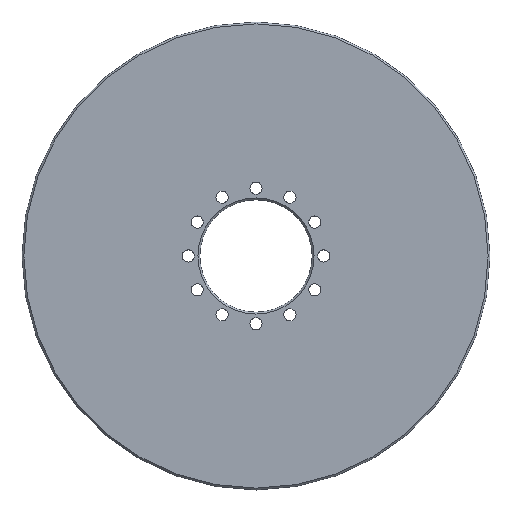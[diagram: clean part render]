
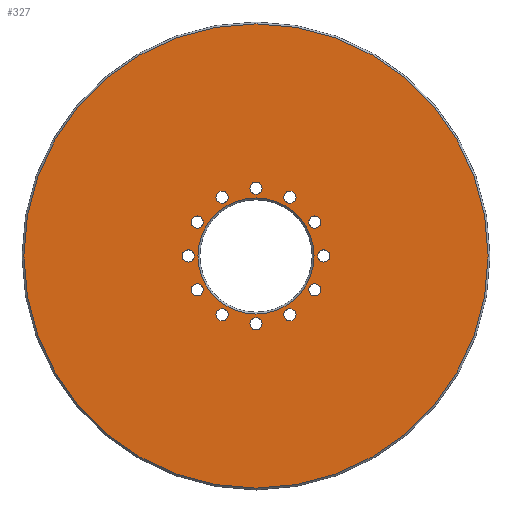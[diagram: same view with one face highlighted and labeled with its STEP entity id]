
A CAD part, top view. The second image highlights one B-rep face of the part: STEP entity #327.
In plain terms, the highlighted planar face has unit normal (0, 0, 1).
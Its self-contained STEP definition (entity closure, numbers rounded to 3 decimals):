
#16=PLANE('',#366);
#47=FACE_BOUND('',#116,.T.);
#48=FACE_BOUND('',#117,.T.);
#49=FACE_BOUND('',#118,.T.);
#50=FACE_BOUND('',#119,.T.);
#51=FACE_BOUND('',#120,.T.);
#52=FACE_BOUND('',#121,.T.);
#53=FACE_BOUND('',#122,.T.);
#54=FACE_BOUND('',#123,.T.);
#55=FACE_BOUND('',#124,.T.);
#56=FACE_BOUND('',#125,.T.);
#57=FACE_BOUND('',#126,.T.);
#58=FACE_BOUND('',#127,.T.);
#59=FACE_BOUND('',#128,.T.);
#79=FACE_OUTER_BOUND('',#115,.T.);
#115=EDGE_LOOP('',(#275));
#116=EDGE_LOOP('',(#276));
#117=EDGE_LOOP('',(#277));
#118=EDGE_LOOP('',(#278));
#119=EDGE_LOOP('',(#279));
#120=EDGE_LOOP('',(#280));
#121=EDGE_LOOP('',(#281));
#122=EDGE_LOOP('',(#282));
#123=EDGE_LOOP('',(#283));
#124=EDGE_LOOP('',(#284));
#125=EDGE_LOOP('',(#285));
#126=EDGE_LOOP('',(#286));
#127=EDGE_LOOP('',(#287));
#128=EDGE_LOOP('',(#288));
#175=CIRCLE('',#365,248.);
#176=CIRCLE('',#367,62.);
#177=CIRCLE('',#368,6.5);
#178=CIRCLE('',#369,6.5);
#179=CIRCLE('',#370,6.5);
#180=CIRCLE('',#371,6.5);
#181=CIRCLE('',#372,6.5);
#182=CIRCLE('',#373,6.5);
#183=CIRCLE('',#374,6.5);
#184=CIRCLE('',#375,6.5);
#185=CIRCLE('',#376,6.5);
#186=CIRCLE('',#377,6.5);
#187=CIRCLE('',#378,6.5);
#188=CIRCLE('',#379,6.5);
#207=VERTEX_POINT('',#540);
#208=VERTEX_POINT('',#543);
#209=VERTEX_POINT('',#545);
#210=VERTEX_POINT('',#547);
#211=VERTEX_POINT('',#549);
#212=VERTEX_POINT('',#551);
#213=VERTEX_POINT('',#553);
#214=VERTEX_POINT('',#555);
#215=VERTEX_POINT('',#557);
#216=VERTEX_POINT('',#559);
#217=VERTEX_POINT('',#561);
#218=VERTEX_POINT('',#563);
#219=VERTEX_POINT('',#565);
#220=VERTEX_POINT('',#567);
#239=EDGE_CURVE('',#207,#207,#175,.T.);
#240=EDGE_CURVE('',#208,#208,#176,.T.);
#241=EDGE_CURVE('',#209,#209,#177,.T.);
#242=EDGE_CURVE('',#210,#210,#178,.T.);
#243=EDGE_CURVE('',#211,#211,#179,.T.);
#244=EDGE_CURVE('',#212,#212,#180,.T.);
#245=EDGE_CURVE('',#213,#213,#181,.T.);
#246=EDGE_CURVE('',#214,#214,#182,.T.);
#247=EDGE_CURVE('',#215,#215,#183,.T.);
#248=EDGE_CURVE('',#216,#216,#184,.T.);
#249=EDGE_CURVE('',#217,#217,#185,.T.);
#250=EDGE_CURVE('',#218,#218,#186,.T.);
#251=EDGE_CURVE('',#219,#219,#187,.T.);
#252=EDGE_CURVE('',#220,#220,#188,.T.);
#275=ORIENTED_EDGE('',*,*,#239,.F.);
#276=ORIENTED_EDGE('',*,*,#240,.F.);
#277=ORIENTED_EDGE('',*,*,#241,.T.);
#278=ORIENTED_EDGE('',*,*,#242,.T.);
#279=ORIENTED_EDGE('',*,*,#243,.T.);
#280=ORIENTED_EDGE('',*,*,#244,.T.);
#281=ORIENTED_EDGE('',*,*,#245,.T.);
#282=ORIENTED_EDGE('',*,*,#246,.T.);
#283=ORIENTED_EDGE('',*,*,#247,.T.);
#284=ORIENTED_EDGE('',*,*,#248,.T.);
#285=ORIENTED_EDGE('',*,*,#249,.T.);
#286=ORIENTED_EDGE('',*,*,#250,.T.);
#287=ORIENTED_EDGE('',*,*,#251,.T.);
#288=ORIENTED_EDGE('',*,*,#252,.T.);
#327=ADVANCED_FACE('',(#79,#47,#48,#49,#50,#51,#52,#53,#54,#55,#56,#57,
#58,#59),#16,.F.);
#365=AXIS2_PLACEMENT_3D('',#541,#439,#440);
#366=AXIS2_PLACEMENT_3D('',#542,#441,#442);
#367=AXIS2_PLACEMENT_3D('',#544,#443,#444);
#368=AXIS2_PLACEMENT_3D('',#546,#445,#446);
#369=AXIS2_PLACEMENT_3D('',#548,#447,#448);
#370=AXIS2_PLACEMENT_3D('',#550,#449,#450);
#371=AXIS2_PLACEMENT_3D('',#552,#451,#452);
#372=AXIS2_PLACEMENT_3D('',#554,#453,#454);
#373=AXIS2_PLACEMENT_3D('',#556,#455,#456);
#374=AXIS2_PLACEMENT_3D('',#558,#457,#458);
#375=AXIS2_PLACEMENT_3D('',#560,#459,#460);
#376=AXIS2_PLACEMENT_3D('',#562,#461,#462);
#377=AXIS2_PLACEMENT_3D('',#564,#463,#464);
#378=AXIS2_PLACEMENT_3D('',#566,#465,#466);
#379=AXIS2_PLACEMENT_3D('',#568,#467,#468);
#439=DIRECTION('center_axis',(0.,0.,-1.));
#440=DIRECTION('ref_axis',(-1.,0.,0.));
#441=DIRECTION('center_axis',(0.,0.,-1.));
#442=DIRECTION('ref_axis',(-1.,0.,0.));
#443=DIRECTION('center_axis',(0.,0.,1.));
#444=DIRECTION('ref_axis',(-1.,0.,0.));
#445=DIRECTION('center_axis',(0.,0.,-1.));
#446=DIRECTION('ref_axis',(1.,0.,0.));
#447=DIRECTION('center_axis',(0.,0.,-1.));
#448=DIRECTION('ref_axis',(0.866,0.5,0.));
#449=DIRECTION('center_axis',(0.,0.,-1.));
#450=DIRECTION('ref_axis',(0.5,0.866,0.));
#451=DIRECTION('center_axis',(0.,0.,-1.));
#452=DIRECTION('ref_axis',(0.,1.,0.));
#453=DIRECTION('center_axis',(0.,0.,-1.));
#454=DIRECTION('ref_axis',(-0.5,0.866,0.));
#455=DIRECTION('center_axis',(0.,0.,-1.));
#456=DIRECTION('ref_axis',(-0.866,0.5,0.));
#457=DIRECTION('center_axis',(0.,0.,-1.));
#458=DIRECTION('ref_axis',(-1.,0.,0.));
#459=DIRECTION('center_axis',(0.,0.,-1.));
#460=DIRECTION('ref_axis',(-0.866,-0.5,0.));
#461=DIRECTION('center_axis',(0.,0.,-1.));
#462=DIRECTION('ref_axis',(-0.5,-0.866,0.));
#463=DIRECTION('center_axis',(0.,0.,-1.));
#464=DIRECTION('ref_axis',(0.,-1.,0.));
#465=DIRECTION('center_axis',(0.,0.,-1.));
#466=DIRECTION('ref_axis',(0.5,-0.866,0.));
#467=DIRECTION('center_axis',(0.,0.,-1.));
#468=DIRECTION('ref_axis',(0.866,-0.5,0.));
#540=CARTESIAN_POINT('',(248.,0.,15.));
#541=CARTESIAN_POINT('Origin',(0.,0.,15.));
#542=CARTESIAN_POINT('Origin',(-625.963,0.,15.));
#543=CARTESIAN_POINT('',(62.,0.,15.));
#544=CARTESIAN_POINT('Origin',(0.,0.,15.));
#545=CARTESIAN_POINT('',(6.5,72.5,15.));
#546=CARTESIAN_POINT('Origin',(0.,72.5,15.));
#547=CARTESIAN_POINT('',(-30.621,66.037,15.));
#548=CARTESIAN_POINT('Origin',(-36.25,62.787,15.));
#549=CARTESIAN_POINT('',(-59.537,41.879,15.));
#550=CARTESIAN_POINT('Origin',(-62.787,36.25,15.));
#551=CARTESIAN_POINT('',(-72.5,6.5,15.));
#552=CARTESIAN_POINT('Origin',(-72.5,0.,15.));
#553=CARTESIAN_POINT('',(-66.037,-30.621,15.));
#554=CARTESIAN_POINT('Origin',(-62.787,-36.25,15.));
#555=CARTESIAN_POINT('',(-41.879,-59.537,15.));
#556=CARTESIAN_POINT('Origin',(-36.25,-62.787,15.));
#557=CARTESIAN_POINT('',(-6.5,-72.5,15.));
#558=CARTESIAN_POINT('Origin',(0.,-72.5,15.));
#559=CARTESIAN_POINT('',(30.621,-66.037,15.));
#560=CARTESIAN_POINT('Origin',(36.25,-62.787,15.));
#561=CARTESIAN_POINT('',(59.537,-41.879,15.));
#562=CARTESIAN_POINT('Origin',(62.787,-36.25,15.));
#563=CARTESIAN_POINT('',(72.5,-6.5,15.));
#564=CARTESIAN_POINT('Origin',(72.5,0.,15.));
#565=CARTESIAN_POINT('',(66.037,30.621,15.));
#566=CARTESIAN_POINT('Origin',(62.787,36.25,15.));
#567=CARTESIAN_POINT('',(41.879,59.537,15.));
#568=CARTESIAN_POINT('Origin',(36.25,62.787,15.));
